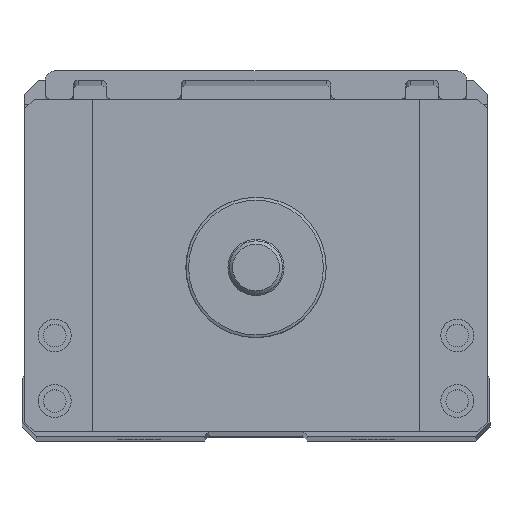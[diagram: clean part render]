
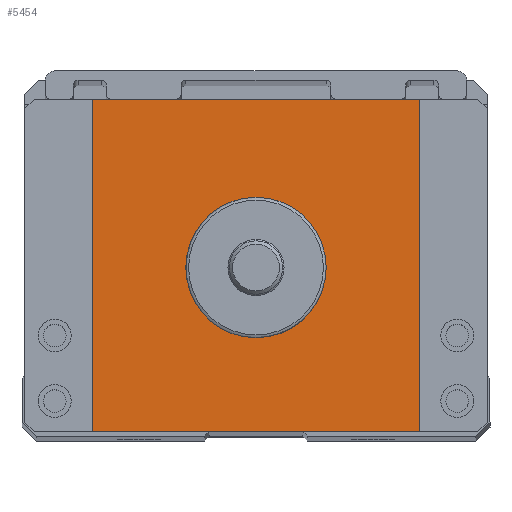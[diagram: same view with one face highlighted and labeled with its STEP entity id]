
A CAD part, top view. The second image highlights one B-rep face of the part: STEP entity #5454.
In plain terms, the highlighted planar face has unit normal (0, 0, 1).
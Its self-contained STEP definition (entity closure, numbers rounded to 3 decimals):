
#4031=FACE_BOUND('',#7230,.T.);
#4032=FACE_BOUND('',#7231,.T.);
#4774=CIRCLE('',#16203,7.5);
#5454=ADVANCED_FACE('',(#4031,#4032),#5824,.T.);
#5824=PLANE('',#16204);
#7230=EDGE_LOOP('',(#10383));
#7231=EDGE_LOOP('',(#10384,#10385,#10386,#10387));
#10383=ORIENTED_EDGE('',*,*,#13161,.T.);
#10384=ORIENTED_EDGE('',*,*,#13162,.T.);
#10385=ORIENTED_EDGE('',*,*,#13163,.T.);
#10386=ORIENTED_EDGE('',*,*,#13158,.T.);
#10387=ORIENTED_EDGE('',*,*,#13164,.T.);
#11568=VERTEX_POINT('',#30998);
#11569=VERTEX_POINT('',#31000);
#11571=VERTEX_POINT('',#31006);
#11572=VERTEX_POINT('',#31008);
#11573=VERTEX_POINT('',#31009);
#13158=EDGE_CURVE('',#11569,#11568,#14101,.T.);
#13161=EDGE_CURVE('',#11571,#11571,#4774,.T.);
#13162=EDGE_CURVE('',#11572,#11573,#14103,.T.);
#13163=EDGE_CURVE('',#11573,#11569,#14104,.T.);
#13164=EDGE_CURVE('',#11568,#11572,#14105,.T.);
#14101=LINE('',#30999,#15032);
#14103=LINE('',#31007,#15034);
#14104=LINE('',#31010,#15035);
#14105=LINE('',#31011,#15036);
#15032=VECTOR('',#19423,1.);
#15034=VECTOR('',#19431,1.);
#15035=VECTOR('',#19432,1.);
#15036=VECTOR('',#19433,1.);
#16203=AXIS2_PLACEMENT_3D('',#31005,#19429,#19430);
#16204=AXIS2_PLACEMENT_3D('',#31012,#19434,#19435);
#19423=DIRECTION('',(-1.,0.,0.));
#19429=DIRECTION('',(0.,0.,-1.));
#19430=DIRECTION('',(1.,0.,0.));
#19431=DIRECTION('',(1.,0.,0.));
#19432=DIRECTION('',(0.,1.,0.));
#19433=DIRECTION('',(0.,-1.,0.));
#19434=DIRECTION('',(0.,0.,1.));
#19435=DIRECTION('',(1.,0.,0.));
#30998=CARTESIAN_POINT('',(-17.5,-4.5,151.5));
#30999=CARTESIAN_POINT('',(24.7,-4.5,151.5));
#31000=CARTESIAN_POINT('',(17.5,-4.5,151.5));
#31005=CARTESIAN_POINT('',(0.,-22.5,151.5));
#31006=CARTESIAN_POINT('',(7.5,-22.5,151.5));
#31007=CARTESIAN_POINT('',(-24.7,-40.,151.5));
#31008=CARTESIAN_POINT('',(-17.5,-40.,151.5));
#31009=CARTESIAN_POINT('',(17.5,-40.,151.5));
#31010=CARTESIAN_POINT('',(17.5,-40.,151.5));
#31011=CARTESIAN_POINT('',(-17.5,-40.,151.5));
#31012=CARTESIAN_POINT('',(24.7,-40.,151.5));
